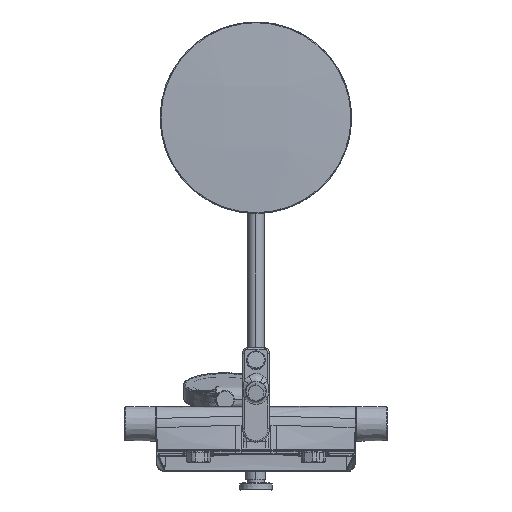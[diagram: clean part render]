
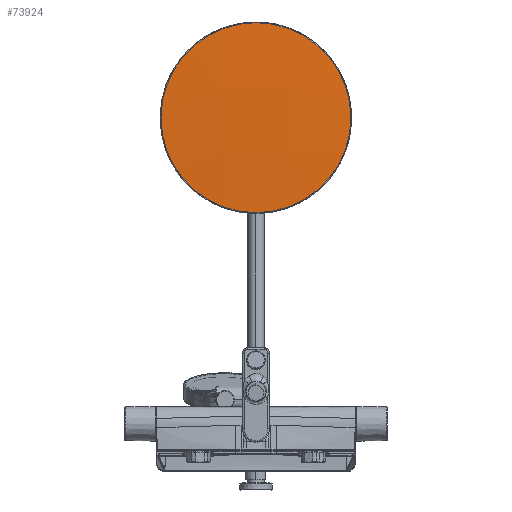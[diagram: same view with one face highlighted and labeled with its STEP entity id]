
A CAD part, front view. The second image highlights one B-rep face of the part: STEP entity #73924.
In plain terms, the highlighted free-form (B-spline) face has degree [3, 3] with [4, 4] control points.
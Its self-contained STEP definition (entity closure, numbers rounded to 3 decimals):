
#1235 = CARTESIAN_POINT ( 'NONE',  ( -125.531, 82.987, 434.795 ) ) ;
#2685 = DIRECTION ( 'NONE',  ( 0., -1., 0.017 ) ) ;
#6251 = EDGE_CURVE ( 'NONE', #18664, #13509, #77467, .T. ) ;
#7161 = CARTESIAN_POINT ( 'NONE',  ( 126.279, 85.623, 350.716 ) ) ;
#9412 = DIRECTION ( 'NONE',  ( -1., 0., 0. ) ) ;
#12695 = CARTESIAN_POINT ( 'NONE',  ( 126.279, 90.05, 602.836 ) ) ;
#13509 = VERTEX_POINT ( 'NONE', #32585 ) ;
#16908 = AXIS2_PLACEMENT_3D ( 'NONE', #58346, #2685, #9412 ) ;
#18664 = VERTEX_POINT ( 'NONE', #28096 ) ;
#20612 = EDGE_LOOP ( 'NONE', ( #62258, #40054 ) ) ;
#21174 = DIRECTION ( 'NONE',  ( -1., 0., 0. ) ) ;
#21295 =( BOUNDED_SURFACE ( )  B_SPLINE_SURFACE ( 3, 3, ( 
 ( #12695, #77915, #66409, #7161 ),
 ( #31243, #73516, #41961, #36015 ),
 ( #59716, #30863, #30081, #72742 ),
 ( #29698, #43505, #1235, #67182 ) ),
 .UNSPECIFIED., .F., .F., .T. ) 
 B_SPLINE_SURFACE_WITH_KNOTS ( ( 4, 4 ),
 ( 4, 4 ),
 ( 0., 1. ),
 ( 0., 1. ),
 .UNSPECIFIED. ) 
 GEOMETRIC_REPRESENTATION_ITEM ( )  RATIONAL_B_SPLINE_SURFACE ( (
 ( 1., 0.999, 0.999, 1.),
 ( 0.999, 0.998, 0.998, 0.999),
 ( 0.999, 0.998, 0.998, 0.999),
 ( 1., 0.999, 0.999, 1.) ) ) 
 REPRESENTATION_ITEM ( '' )  SURFACE ( )  );
#27099 = CARTESIAN_POINT ( 'NONE',  ( 0., 84.669, 476.565 ) ) ;
#28096 = CARTESIAN_POINT ( 'NONE',  ( 124.039, 84.669, 476.565 ) ) ;
#29698 = CARTESIAN_POINT ( 'NONE',  ( -125.531, 90.014, 602.838 ) ) ;
#30081 = CARTESIAN_POINT ( 'NONE',  ( -41.627, 78.938, 434.801 ) ) ;
#30863 = CARTESIAN_POINT ( 'NONE',  ( -41.627, 80.417, 519.038 ) ) ;
#31243 = CARTESIAN_POINT ( 'NONE',  ( 42.375, 85.988, 603.105 ) ) ;
#32585 = CARTESIAN_POINT ( 'NONE',  ( -124.039, 84.669, 476.565 ) ) ;
#33426 = DIRECTION ( 'NONE',  ( 0., -1., 0.017 ) ) ;
#36015 = CARTESIAN_POINT ( 'NONE',  ( 42.375, 81.554, 350.591 ) ) ;
#40054 = ORIENTED_EDGE ( 'NONE', *, *, #6251, .T. ) ;
#41961 = CARTESIAN_POINT ( 'NONE',  ( 42.375, 78.951, 434.801 ) ) ;
#43505 = CARTESIAN_POINT ( 'NONE',  ( -125.531, 84.464, 518.902 ) ) ;
#49370 = CIRCLE ( 'NONE', #72123, 124.039 ) ;
#53791 = FACE_OUTER_BOUND ( 'NONE', #20612, .T. ) ;
#58346 = CARTESIAN_POINT ( 'NONE',  ( 0., 84.669, 476.565 ) ) ;
#58874 = EDGE_CURVE ( 'NONE', #13509, #18664, #49370, .T. ) ;
#59716 = CARTESIAN_POINT ( 'NONE',  ( -41.627, 85.976, 603.105 ) ) ;
#62258 = ORIENTED_EDGE ( 'NONE', *, *, #58874, .T. ) ;
#66409 = CARTESIAN_POINT ( 'NONE',  ( 126.279, 83.024, 434.795 ) ) ;
#67182 = CARTESIAN_POINT ( 'NONE',  ( -125.531, 85.587, 350.715 ) ) ;
#72123 = AXIS2_PLACEMENT_3D ( 'NONE', #27099, #33426, #21174 ) ;
#72742 = CARTESIAN_POINT ( 'NONE',  ( -41.627, 81.542, 350.59 ) ) ;
#73516 = CARTESIAN_POINT ( 'NONE',  ( 42.375, 80.43, 519.038 ) ) ;
#73924 = ADVANCED_FACE ( 'NONE', ( #53791 ), #21295, .T. ) ;
#77467 = CIRCLE ( 'NONE', #16908, 124.039 ) ;
#77915 = CARTESIAN_POINT ( 'NONE',  ( 126.279, 84.5, 518.901 ) ) ;
